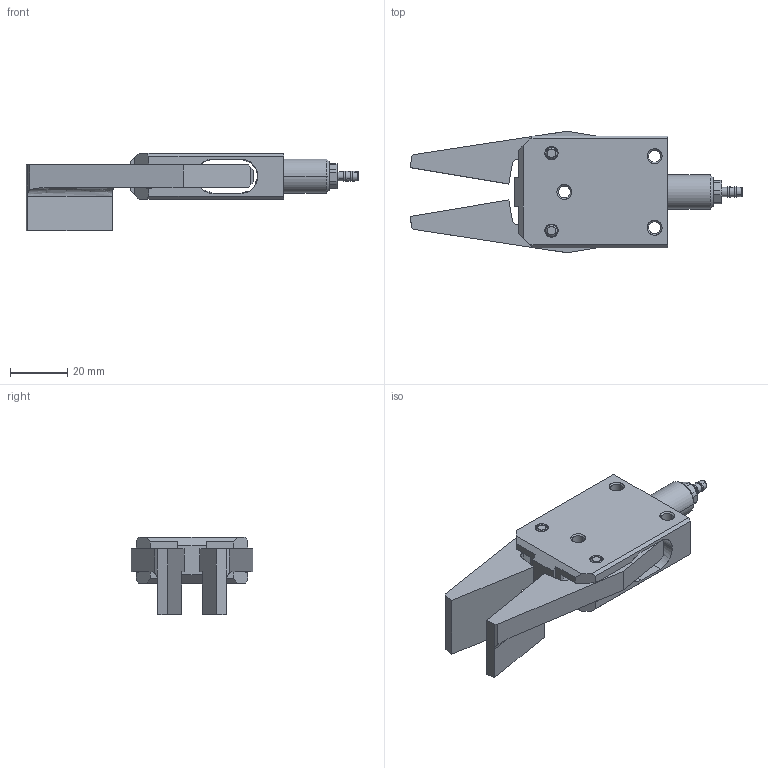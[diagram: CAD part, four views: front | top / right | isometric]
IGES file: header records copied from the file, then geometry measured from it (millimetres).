
Start section: SolidWorks IGES file using analytic representation for surfaces
Global section: file name: E:\2010 カタログ（別冊）\Eins10年4月発売予定新商品データ0311\New CHK-E\CHK-EL1-12-C\022996.IGS; native system: SolidWorks 2006 by SolidWorks Corporation; preprocessor: SolidWorks 2006 by SolidWorks Corporation; author: CAD53; date: 100604.131932; units: millimetre
Bounding box: 115.88 x 42.43 x 27 mm (x, y, z)
Surface area: 16808.4 mm2 (no closed solid volume)
Topology: 0 solids, 0 shells, 145 faces, 1881 edges, 1881 vertices
Faces by surface type: revolution 80, bspline 65
